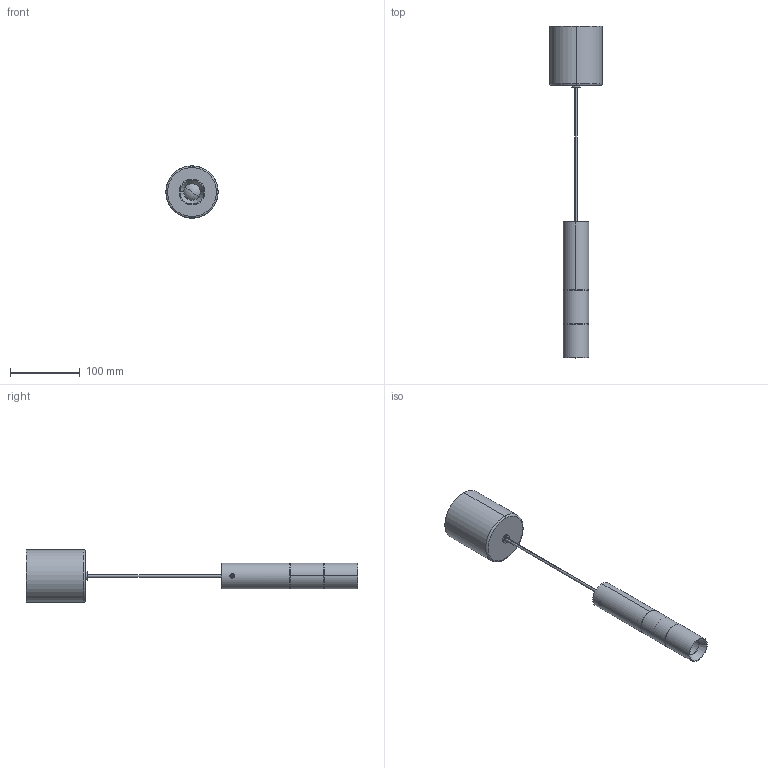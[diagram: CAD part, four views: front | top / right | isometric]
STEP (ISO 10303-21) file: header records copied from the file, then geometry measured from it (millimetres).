
FILE_DESCRIPTION (( 'STEP AP203' ), '1' );
FILE_NAME ('3D_Type pendant.STEP', '2023-01-20T09:21:09', ( '' ), ( '' ), 'SwSTEP 2.0', 'SolidWorks 2016', '' );
FILE_SCHEMA (( 'CONFIG_CONTROL_DESIGN' ));
Length unit declared in the file: millimetre
Products named in the file (12): type_assieme testata_versione sospesa; 010TYP700300_tubo coda_versione lettura-sospensione; 061TYP000100_lente vtr lappata d24,8 efl28,7; 082COM000441_CAVO 2x0,5 FEP+PVC NE; 010LIN701400_Rosone verticale; 3D_Type pendant; Steab 5016; Assieme Rosone_l=1000; 010TYP700200_Tappo svasato AVP M10x1.5; grano EI M5x08 PP; 010TYP700500_Tubo zoom; 010TYP700400_Tubo dimmer
Assembly tree (11 placements, depth 3):
  3D_Type pendant
    type_assieme testata_versione sospesa
      010TYP700300_tubo coda_versione lettura-sospensione
      010TYP700500_Tubo zoom
      010TYP700400_Tubo dimmer
      061TYP000100_lente vtr lappata d24,8 efl28,7
      010TYP700200_Tappo svasato AVP M10x1.5
      grano EI M5x08 PP
    Assieme Rosone_l=1000
      Steab 5016
      010LIN701400_Rosone verticale
    082COM000441_CAVO 2x0,5 FEP+PVC NE
Bounding box: 74.98 x 475.01 x 74.99 mm (x, y, z)
Volume: 110891.2 mm3; surface area: 103393.3 mm2
Topology: 9 solids, 9 shells, 152 faces, 345 edges, 218 vertices
Faces by surface type: cylinder 64, plane 50, cone 22, bspline 8, torus 6, sphere 2
Entity records: 11098 total; most frequent: CARTESIAN_POINT 6354, DIRECTION 766, ORIENTED_EDGE 682, EDGE_CURVE 341, AXIS2_PLACEMENT_3D 314, VERTEX_POINT 218, EDGE_LOOP 185, CIRCLE 154
